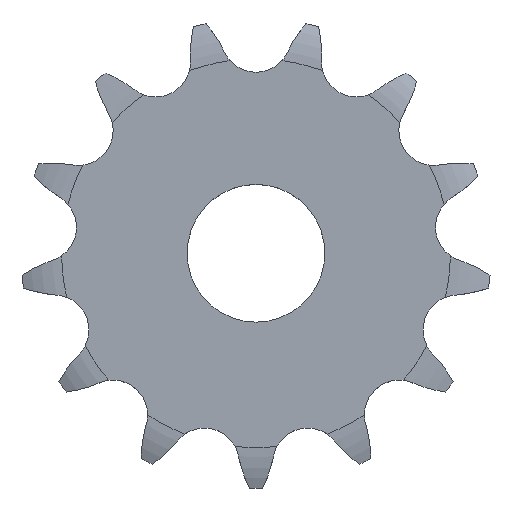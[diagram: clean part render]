
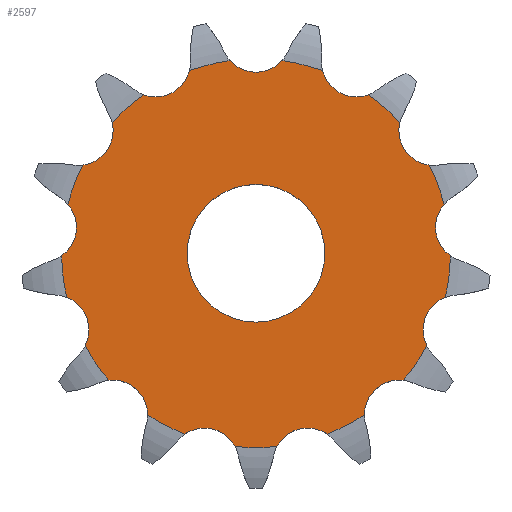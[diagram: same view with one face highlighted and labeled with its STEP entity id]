
A CAD part, top view. The second image highlights one B-rep face of the part: STEP entity #2597.
In plain terms, the highlighted planar face has unit normal (0, 0, 1).
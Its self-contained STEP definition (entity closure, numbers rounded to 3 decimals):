
#33=CARTESIAN_POINT('',(0.,0.,1.3));
#34=DIRECTION('',(0.,0.,-1.));
#35=DIRECTION('',(0.133,0.991,0.));
#36=AXIS2_PLACEMENT_3D('',#33,#34,#35);
#42=CARTESIAN_POINT('',(5.826,11.1,1.3));
#43=DIRECTION('',(0.,0.,1.));
#44=DIRECTION('',(-0.97,-0.244,0.));
#45=AXIS2_PLACEMENT_3D('',#42,#43,#44);
#50=CARTESIAN_POINT('',(0.,0.,1.3));
#51=DIRECTION('',(0.,0.,-1.));
#52=DIRECTION('',(0.579,0.816,0.));
#53=AXIS2_PLACEMENT_3D('',#50,#51,#52);
#58=CARTESIAN_POINT('',(10.317,7.121,1.3));
#59=DIRECTION('',(0.,0.,1.));
#60=DIRECTION('',(-0.972,0.235,0.));
#61=AXIS2_PLACEMENT_3D('',#58,#59,#60);
#66=CARTESIAN_POINT('',(0.,0.,1.3));
#67=DIRECTION('',(0.,0.,-1.));
#68=DIRECTION('',(0.891,0.453,0.));
#69=AXIS2_PLACEMENT_3D('',#66,#67,#68);
#74=CARTESIAN_POINT('',(12.444,1.511,1.3));
#75=DIRECTION('',(0.,0.,1.));
#76=DIRECTION('',(-0.752,0.659,0.));
#77=AXIS2_PLACEMENT_3D('',#74,#75,#76);
#82=CARTESIAN_POINT('',(0.,0.,1.3));
#83=DIRECTION('',(0.,0.,-1.));
#84=DIRECTION('',(1.,-0.013,0.));
#85=AXIS2_PLACEMENT_3D('',#82,#83,#84);
#90=CARTESIAN_POINT('',(11.721,-4.445,1.3));
#91=DIRECTION('',(0.,0.,1.));
#92=DIRECTION('',(-0.359,0.933,0.));
#93=AXIS2_PLACEMENT_3D('',#90,#91,#92);
#98=CARTESIAN_POINT('',(0.,0.,1.3));
#99=DIRECTION('',(0.,0.,-1.));
#100=DIRECTION('',(0.879,-0.476,0.));
#101=AXIS2_PLACEMENT_3D('',#98,#99,#100);
#106=CARTESIAN_POINT('',(8.313,-9.383,1.3));
#107=DIRECTION('',(0.,0.,1.));
#108=DIRECTION('',(0.116,0.993,0.));
#109=AXIS2_PLACEMENT_3D('',#106,#107,#108);
#114=CARTESIAN_POINT('',(0.,0.,1.3));
#115=DIRECTION('',(0.,0.,-1.));
#116=DIRECTION('',(0.557,-0.83,0.));
#117=AXIS2_PLACEMENT_3D('',#114,#115,#116);
#122=CARTESIAN_POINT('',(3.,-12.171,1.3));
#123=DIRECTION('',(0.,0.,1.));
#124=DIRECTION('',(0.564,0.826,0.));
#125=AXIS2_PLACEMENT_3D('',#122,#123,#124);
#130=CARTESIAN_POINT('',(-3.,-12.171,1.3));
#131=DIRECTION('',(0.,0.,1.));
#132=DIRECTION('',(0.883,0.469,0.));
#133=AXIS2_PLACEMENT_3D('',#130,#131,#132);
#138=CARTESIAN_POINT('',(0.,0.,1.3));
#139=DIRECTION('',(0.,0.,-1.));
#140=DIRECTION('',(-0.367,-0.93,0.));
#141=AXIS2_PLACEMENT_3D('',#138,#139,#140);
#146=CARTESIAN_POINT('',(-8.313,-9.383,1.3));
#147=DIRECTION('',(0.,0.,1.));
#148=DIRECTION('',(1.,0.005,0.));
#149=AXIS2_PLACEMENT_3D('',#146,#147,#148);
#154=CARTESIAN_POINT('',(0.,0.,1.3));
#155=DIRECTION('',(0.,0.,-1.));
#156=DIRECTION('',(-0.757,-0.653,0.));
#157=AXIS2_PLACEMENT_3D('',#154,#155,#156);
#162=CARTESIAN_POINT('',(-11.721,-4.445,1.3));
#163=DIRECTION('',(0.,0.,1.));
#164=DIRECTION('',(0.888,-0.46,0.));
#165=AXIS2_PLACEMENT_3D('',#162,#163,#164);
#170=CARTESIAN_POINT('',(0.,0.,1.3));
#171=DIRECTION('',(0.,0.,-1.));
#172=DIRECTION('',(-0.974,-0.227,0.));
#173=AXIS2_PLACEMENT_3D('',#170,#171,#172);
#178=CARTESIAN_POINT('',(-12.444,1.511,1.3));
#179=DIRECTION('',(0.,0.,1.));
#180=DIRECTION('',(0.572,-0.82,0.));
#181=AXIS2_PLACEMENT_3D('',#178,#179,#180);
#186=CARTESIAN_POINT('',(0.,0.,1.3));
#187=DIRECTION('',(0.,0.,-1.));
#188=DIRECTION('',(-0.968,0.252,0.));
#189=AXIS2_PLACEMENT_3D('',#186,#187,#188);
#194=CARTESIAN_POINT('',(-10.317,7.121,1.3));
#195=DIRECTION('',(0.,0.,1.));
#196=DIRECTION('',(0.125,-0.992,0.));
#197=AXIS2_PLACEMENT_3D('',#194,#195,#196);
#202=CARTESIAN_POINT('',(0.,0.,1.3));
#203=DIRECTION('',(0.,0.,-1.));
#204=DIRECTION('',(-0.74,0.673,0.));
#205=AXIS2_PLACEMENT_3D('',#202,#203,#204);
#210=CARTESIAN_POINT('',(-5.826,11.1,1.3));
#211=DIRECTION('',(0.,0.,1.));
#212=DIRECTION('',(-0.35,-0.937,0.));
#213=AXIS2_PLACEMENT_3D('',#210,#211,#212);
#218=CARTESIAN_POINT('',(0.,0.,1.3));
#219=DIRECTION('',(0.,0.,-1.));
#220=DIRECTION('',(-0.343,0.94,0.));
#221=AXIS2_PLACEMENT_3D('',#218,#219,#220);
#226=CARTESIAN_POINT('',(0.,12.536,1.3));
#227=DIRECTION('',(0.,0.,1.));
#228=DIRECTION('',(-0.745,-0.667,0.));
#229=AXIS2_PLACEMENT_3D('',#226,#227,#228);
#234=CARTESIAN_POINT('',(0.,0.,1.3));
#235=DIRECTION('',(0.,0.,1.));
#236=DIRECTION('',(1.,0.,0.));
#237=AXIS2_PLACEMENT_3D('',#234,#235,#236);
#242=CARTESIAN_POINT('',(0.,0.,1.3));
#243=DIRECTION('',(0.,0.,1.));
#244=DIRECTION('',(-1.,0.,0.));
#245=AXIS2_PLACEMENT_3D('',#242,#243,#244);
#306=CARTESIAN_POINT('',(0.,0.,1.3));
#307=DIRECTION('',(0.,0.,1.));
#308=DIRECTION('',(-0.108,-0.994,0.));
#309=AXIS2_PLACEMENT_3D('',#306,#307,#308);
#1763=CARTESIAN_POINT('',(-1.216,-11.224,1.3));
#2252=CARTESIAN_POINT('',(1.505,11.189,1.3));
#2253=CARTESIAN_POINT('',(3.867,10.607,1.3));
#2254=VERTEX_POINT('',#2252);
#2255=VERTEX_POINT('',#2253);
#2256=CARTESIAN_POINT('',(6.533,9.208,1.3));
#2257=CARTESIAN_POINT('',(8.353,7.595,1.3));
#2258=VERTEX_POINT('',#2256);
#2259=VERTEX_POINT('',#2257);
#2260=CARTESIAN_POINT('',(10.063,5.117,1.3));
#2261=CARTESIAN_POINT('',(10.926,2.843,1.3));
#2262=VERTEX_POINT('',#2260);
#2263=VERTEX_POINT('',#2261);
#2264=CARTESIAN_POINT('',(11.289,-0.146,1.3));
#2265=CARTESIAN_POINT('',(10.996,-2.56,1.3));
#2266=VERTEX_POINT('',#2264);
#2267=VERTEX_POINT('',#2265);
#2268=CARTESIAN_POINT('',(-4.139,-10.503,1.3));
#2269=CARTESIAN_POINT('',(-6.293,-9.373,1.3));
#2270=VERTEX_POINT('',#2268);
#2271=VERTEX_POINT('',#2269);
#2272=CARTESIAN_POINT('',(-8.546,-7.377,1.3));
#2273=CARTESIAN_POINT('',(-9.928,-5.375,1.3));
#2274=VERTEX_POINT('',#2272);
#2275=VERTEX_POINT('',#2273);
#2276=CARTESIAN_POINT('',(-10.996,-2.56,1.3));
#2277=CARTESIAN_POINT('',(-11.289,-0.146,1.3));
#2278=VERTEX_POINT('',#2276);
#2279=VERTEX_POINT('',#2277);
#2323=VERTEX_POINT('',#1763);
#2330=CARTESIAN_POINT('',(9.928,-5.375,1.3));
#2331=VERTEX_POINT('',#2330);
#2334=CARTESIAN_POINT('',(8.546,-7.377,1.3));
#2335=CARTESIAN_POINT('',(6.293,-9.373,1.3));
#2336=VERTEX_POINT('',#2334);
#2337=VERTEX_POINT('',#2335);
#2342=CARTESIAN_POINT('',(4.139,-10.503,1.3));
#2343=CARTESIAN_POINT('',(1.216,-11.224,1.3));
#2344=VERTEX_POINT('',#2342);
#2345=VERTEX_POINT('',#2343);
#2374=CARTESIAN_POINT('',(-10.926,2.843,1.3));
#2375=CARTESIAN_POINT('',(-10.063,5.117,1.3));
#2376=VERTEX_POINT('',#2374);
#2377=VERTEX_POINT('',#2375);
#2378=CARTESIAN_POINT('',(-8.353,7.595,1.3));
#2379=CARTESIAN_POINT('',(-6.533,9.208,1.3));
#2380=VERTEX_POINT('',#2378);
#2381=VERTEX_POINT('',#2379);
#2382=CARTESIAN_POINT('',(-3.867,10.607,1.3));
#2383=CARTESIAN_POINT('',(-1.505,11.189,1.3));
#2384=VERTEX_POINT('',#2382);
#2385=VERTEX_POINT('',#2383);
#2398=CARTESIAN_POINT('',(4.,0.,1.3));
#2399=CARTESIAN_POINT('',(-4.,0.,1.3));
#2400=VERTEX_POINT('',#2398);
#2401=VERTEX_POINT('',#2399);
#2532=CARTESIAN_POINT('',(0.,0.,1.3));
#2533=DIRECTION('',(0.,0.,1.));
#2534=DIRECTION('',(1.,0.,0.));
#2535=AXIS2_PLACEMENT_3D('',#2532,#2533,#2534);
#2536=PLANE('',#2535);
#2538=ORIENTED_EDGE('',*,*,#2537,.T.);
#2540=ORIENTED_EDGE('',*,*,#2539,.T.);
#2542=ORIENTED_EDGE('',*,*,#2541,.T.);
#2544=ORIENTED_EDGE('',*,*,#2543,.T.);
#2546=ORIENTED_EDGE('',*,*,#2545,.T.);
#2548=ORIENTED_EDGE('',*,*,#2547,.T.);
#2550=ORIENTED_EDGE('',*,*,#2549,.T.);
#2552=ORIENTED_EDGE('',*,*,#2551,.T.);
#2554=ORIENTED_EDGE('',*,*,#2553,.T.);
#2556=ORIENTED_EDGE('',*,*,#2555,.T.);
#2558=ORIENTED_EDGE('',*,*,#2557,.T.);
#2560=ORIENTED_EDGE('',*,*,#2559,.T.);
#2562=ORIENTED_EDGE('',*,*,#2561,.F.);
#2564=ORIENTED_EDGE('',*,*,#2563,.T.);
#2566=ORIENTED_EDGE('',*,*,#2565,.T.);
#2568=ORIENTED_EDGE('',*,*,#2567,.T.);
#2570=ORIENTED_EDGE('',*,*,#2569,.T.);
#2572=ORIENTED_EDGE('',*,*,#2571,.T.);
#2574=ORIENTED_EDGE('',*,*,#2573,.T.);
#2576=ORIENTED_EDGE('',*,*,#2575,.T.);
#2578=ORIENTED_EDGE('',*,*,#2577,.T.);
#2580=ORIENTED_EDGE('',*,*,#2579,.T.);
#2582=ORIENTED_EDGE('',*,*,#2581,.T.);
#2584=ORIENTED_EDGE('',*,*,#2583,.T.);
#2586=ORIENTED_EDGE('',*,*,#2585,.T.);
#2588=ORIENTED_EDGE('',*,*,#2587,.T.);
#2589=EDGE_LOOP('',(#2538,#2540,#2542,#2544,#2546,#2548,#2550,#2552,#2554,#2556,
#2558,#2560,#2562,#2564,#2566,#2568,#2570,#2572,#2574,#2576,#2578,#2580,#2582,
#2584,#2586,#2588));
#2590=FACE_OUTER_BOUND('',#2589,.F.);
#2592=ORIENTED_EDGE('',*,*,#2591,.T.);
#2594=ORIENTED_EDGE('',*,*,#2593,.T.);
#2595=EDGE_LOOP('',(#2592,#2594));
#2596=FACE_BOUND('',#2595,.F.);
#2597=ADVANCED_FACE('',(#2590,#2596),#2536,.T.);
#37=CIRCLE('',#36,11.29);
#46=CIRCLE('',#45,2.02);
#54=CIRCLE('',#53,11.29);
#62=CIRCLE('',#61,2.02);
#70=CIRCLE('',#69,11.29);
#78=CIRCLE('',#77,2.02);
#86=CIRCLE('',#85,11.29);
#94=CIRCLE('',#93,2.02);
#102=CIRCLE('',#101,11.29);
#110=CIRCLE('',#109,2.02);
#118=CIRCLE('',#117,11.29);
#126=CIRCLE('',#125,2.02);
#134=CIRCLE('',#133,2.02);
#142=CIRCLE('',#141,11.29);
#150=CIRCLE('',#149,2.02);
#158=CIRCLE('',#157,11.29);
#166=CIRCLE('',#165,2.02);
#174=CIRCLE('',#173,11.29);
#182=CIRCLE('',#181,2.02);
#190=CIRCLE('',#189,11.29);
#198=CIRCLE('',#197,2.02);
#206=CIRCLE('',#205,11.29);
#214=CIRCLE('',#213,2.02);
#222=CIRCLE('',#221,11.29);
#230=CIRCLE('',#229,2.02);
#238=CIRCLE('',#237,4.);
#246=CIRCLE('',#245,4.);
#310=CIRCLE('',#309,11.29);
#2537=EDGE_CURVE('',#2254,#2255,#37,.T.);
#2539=EDGE_CURVE('',#2255,#2258,#46,.T.);
#2541=EDGE_CURVE('',#2258,#2259,#54,.T.);
#2543=EDGE_CURVE('',#2259,#2262,#62,.T.);
#2545=EDGE_CURVE('',#2262,#2263,#70,.T.);
#2547=EDGE_CURVE('',#2263,#2266,#78,.T.);
#2549=EDGE_CURVE('',#2266,#2267,#86,.T.);
#2551=EDGE_CURVE('',#2267,#2331,#94,.T.);
#2553=EDGE_CURVE('',#2331,#2336,#102,.T.);
#2555=EDGE_CURVE('',#2336,#2337,#110,.T.);
#2557=EDGE_CURVE('',#2337,#2344,#118,.T.);
#2559=EDGE_CURVE('',#2344,#2345,#126,.T.);
#2561=EDGE_CURVE('',#2323,#2345,#310,.T.);
#2563=EDGE_CURVE('',#2323,#2270,#134,.T.);
#2565=EDGE_CURVE('',#2270,#2271,#142,.T.);
#2567=EDGE_CURVE('',#2271,#2274,#150,.T.);
#2569=EDGE_CURVE('',#2274,#2275,#158,.T.);
#2571=EDGE_CURVE('',#2275,#2278,#166,.T.);
#2573=EDGE_CURVE('',#2278,#2279,#174,.T.);
#2575=EDGE_CURVE('',#2279,#2376,#182,.T.);
#2577=EDGE_CURVE('',#2376,#2377,#190,.T.);
#2579=EDGE_CURVE('',#2377,#2380,#198,.T.);
#2581=EDGE_CURVE('',#2380,#2381,#206,.T.);
#2583=EDGE_CURVE('',#2381,#2384,#214,.T.);
#2585=EDGE_CURVE('',#2384,#2385,#222,.T.);
#2587=EDGE_CURVE('',#2385,#2254,#230,.T.);
#2591=EDGE_CURVE('',#2400,#2401,#238,.T.);
#2593=EDGE_CURVE('',#2401,#2400,#246,.T.);
